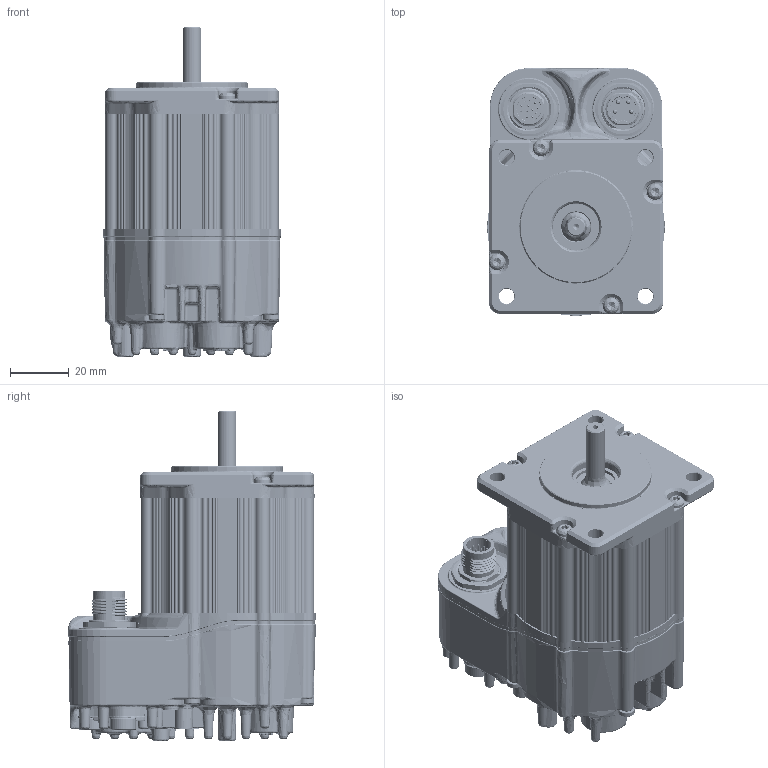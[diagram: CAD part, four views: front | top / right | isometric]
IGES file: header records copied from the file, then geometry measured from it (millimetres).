
Start section: SolidWorks IGES file using analytic representation for surfaces
Global section: file name: C:\TeknicPDM\EtherPath CPM-S\EtherPath CPM-S Customer Files\EC Customer Models\EC 231xQ.igs; native system: SolidWorks 2020; preprocessor: SolidWorks 2020; author: mike_berezny; date: 241009.130802; units: inch
Bounding box: 60.26 x 84.12 x 111.8 mm (x, y, z)
Surface area: 111004.9 mm2 (no closed solid volume)
Topology: 0 solids, 0 shells, 12084 faces, 108206 edges, 107410 vertices
Faces by surface type: bspline 6295, revolution 5789
